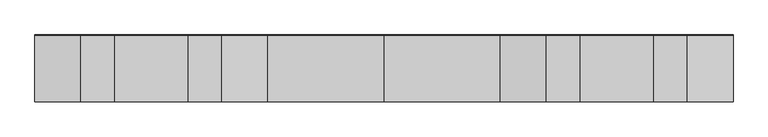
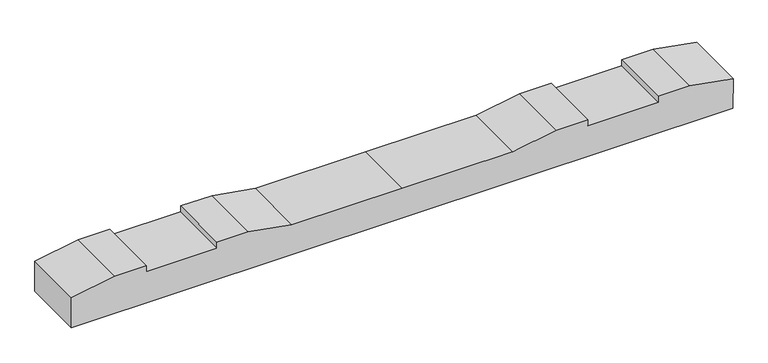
"""IFC4 building model written with IfcOpenShell, lengths in millimetres: proxy geometry, 轨枕-立面角度 : 轨枕-立面角度."""

from ifc_helpers import new_model, si_unit, frame, origin, place, context, project, spatial, polyline, outline, extrude, source, transform, mapped, element, save


def generic_models_d70fb252(model_context):
    return source(origin(), model_context, "Body", "SweptSolid", [
        extrude(outline(polyline([(0.0, 0.0), (2099.7669328, 0.0), (2099.7669328, -100.020689), (1961.8834664, -124.5000001), (1861.8834664, -124.5000001), (1861.8834664, -104.5000001), (1637.8834664, -104.5000001), (1637.8834664, -124.5000001), (1537.8834664, -124.5000001), (1399.8834664, -100.0), (1049.8834664, -100.0), (699.8834664, -100.0), (561.8834664, -124.5000001), (461.8834664, -124.5000001), (461.8834664, -104.5000001), (237.8834664, -104.5000001), (237.8834664, -124.5000001), (137.8834664, -124.5000001), (0.0, -100.020689), (0.0, 0.0)])), frame((-1049.8834664, -99.5071587, -104.9694021), z_axis=(0.0, 0.9999889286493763, 0.004705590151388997), x_axis=(1.0, 0.0, 0.0)), (0.0, 0.0, 1.0), 200.0),
    ])


if __name__ == "__main__":
    model = new_model("IFC4")
    model_context = context("Model", 3, world=origin())
    ifc_project = project(units=[si_unit("LENGTHUNIT", "METRE", prefix="MILLI")], contexts=[model_context])
    site = spatial("IfcSite", under=ifc_project)
    building = spatial("IfcBuilding", under=site)
    placement = place(None, origin())
    generic_models_shape = generic_models_d70fb252(model_context)
    element("IfcBuildingElementProxy", 1, Name="轨枕-立面角度 : 轨枕-立面角度", ObjectType="轨枕-立面角度 : 轨枕-立面角度", at=placement, inside=building, context=model_context, shape_type="MappedRepresentation", body=[
        mapped(generic_models_shape, transform((0.0, 0.0, 0.0), x_axis=(1.0, 0.0, 0.0), y_axis=(0.0, 1.0, 0.0), z_axis=(0.0, 0.0, 1.0))),
    ])
    save(model, "model.ifc")
